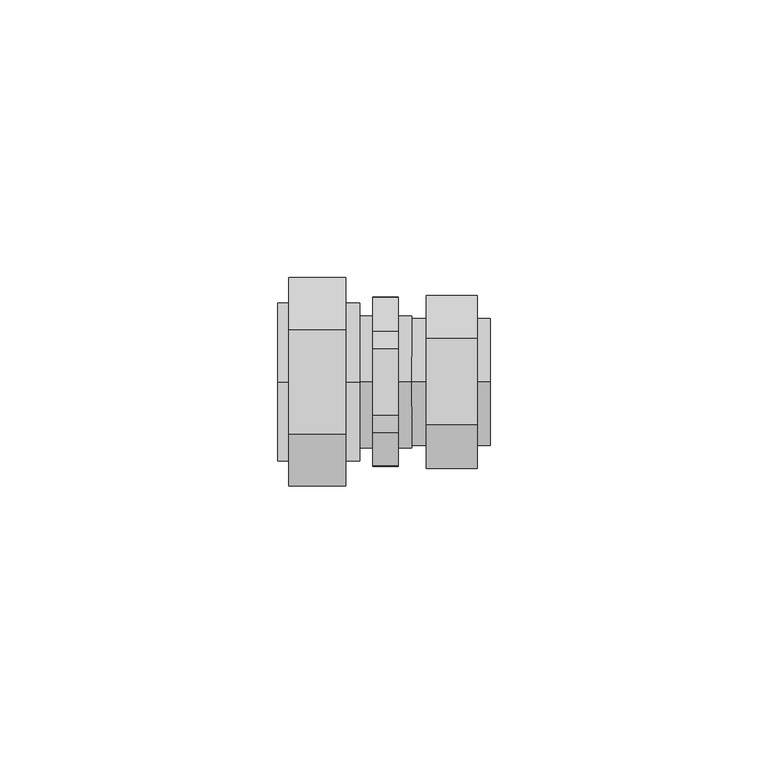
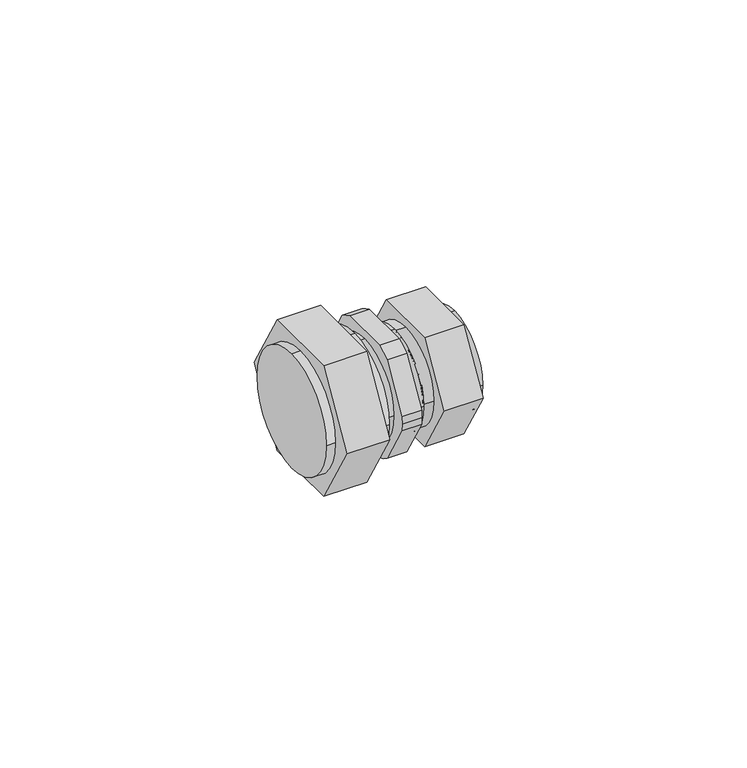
"""IFC4 building model written with IfcOpenShell, lengths in millimetres: pipe fitting geometry, HC-Kształtka-ParaForma-Tweetop-PERT-Redukcja : Tweetop."""

from ifc_helpers import new_model, si_unit, frame, origin, place, context, project, spatial, circle_curve, source, transform, mapped, element, save
from ifc_brep_helpers import plane_surface, cylinder_surface, advanced_brep


def pipe_fitting_6f00802d(model_context):
    return source(origin(), model_context, "Body", "AdvancedBrep", [
        advanced_brep(
        [(18.8, 0.0, -11.45), (18.8, -11.45, 0.0), (16.5, -11.45, 0.0), (16.5, 0.0, -11.45), (4.7, -11.45, 0.0), (4.7, 0.0, -11.45), (7.3, 0.0, -11.45), (7.3, -11.45, 0.0), (4.7, 0.0, 11.45), (4.7, 11.45, 0.0), (7.3, 7.7942286, -13.5), (7.3, -7.7942286, -13.5), (7.3, -15.5884573, 0.0), (7.3, -7.7942286, 13.5), (7.3, 7.7942286, 13.5), (7.3, 15.5884573, 0.0), (7.3, 0.0, 11.45), (7.3, 11.45, 0.0), (16.5, 7.7942286, -13.5), (16.5, 15.5884573, 0.0), (16.5, 7.7942286, 13.5), (16.5, -7.7942286, 13.5), (16.5, -15.5884573, 0.0), (16.5, -7.7942286, -13.5), (16.5, 0.0, 11.45), (16.5, 11.45, 0.0), (18.8, 0.0, 11.45), (18.8, 11.45, 0.0)],
        [
            (0, 1, circle_curve(frame((18.8, 0.0, 0.0), z_axis=(-1.0, 0.0, 0.0), x_axis=(0.0, 1.0000000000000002, 0.0)), 11.45)),
            (1, 2),
            (2, 3, circle_curve(frame((16.5, 0.0, 0.0), z_axis=(1.0, 0.0, 0.0), x_axis=(0.0, 1.0000000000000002, 0.0)), 11.45)),
            (3, 0),
            (4, 5, circle_curve(frame((4.7, 0.0, 0.0), z_axis=(1.0, 0.0, 0.0), x_axis=(0.0, 1.0000000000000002, 0.0)), 11.45)),
            (5, 6),
            (6, 7, circle_curve(frame((7.3, 0.0, 0.0), z_axis=(-1.0, 0.0, 0.0), x_axis=(0.0, 1.0000000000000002, 0.0)), 11.45)),
            (7, 4),
            (8, 9, circle_curve(frame((4.7, 0.0, 0.0), z_axis=(-1.0, 0.0, 0.0), x_axis=(0.0, 1.0000000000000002, 0.0)), 11.45)),
            (9, 5, circle_curve(frame((4.7, 0.0, 0.0), z_axis=(-1.0, 0.0, 0.0), x_axis=(0.0, 1.0000000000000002, 0.0)), 11.45)),
            (4, 8, circle_curve(frame((4.7, 0.0, 0.0), z_axis=(-1.0, 0.0, 0.0), x_axis=(0.0, 1.0000000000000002, 0.0)), 11.45)),
            (10, 11),
            (11, 12),
            (12, 13),
            (13, 14),
            (14, 15),
            (15, 10),
            (16, 7, circle_curve(frame((7.3, 0.0, 0.0), z_axis=(1.0, 0.0, 0.0), x_axis=(0.0, 1.0000000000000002, 0.0)), 11.45)),
            (6, 17, circle_curve(frame((7.3, 0.0, 0.0), z_axis=(1.0, 0.0, 0.0), x_axis=(0.0, 1.0000000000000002, 0.0)), 11.45)),
            (17, 16, circle_curve(frame((7.3, 0.0, 0.0), z_axis=(1.0, 0.0, 0.0), x_axis=(0.0, 1.0000000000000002, 0.0)), 11.45)),
            (18, 19),
            (19, 20),
            (20, 21),
            (21, 22),
            (22, 23),
            (23, 18),
            (2, 24, circle_curve(frame((16.5, 0.0, 0.0), z_axis=(-1.0, 0.0, 0.0), x_axis=(0.0, 1.0000000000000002, 0.0)), 11.45)),
            (24, 25, circle_curve(frame((16.5, 0.0, 0.0), z_axis=(-1.0, 0.0, 0.0), x_axis=(0.0, 1.0000000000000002, 0.0)), 11.45)),
            (25, 3, circle_curve(frame((16.5, 0.0, 0.0), z_axis=(-1.0, 0.0, 0.0), x_axis=(0.0, 1.0000000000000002, 0.0)), 11.45)),
            (10, 18),
            (23, 11),
            (22, 12),
            (21, 13),
            (20, 14),
            (19, 15),
            (1, 26, circle_curve(frame((18.8, 0.0, 0.0), z_axis=(-1.0, 0.0, 0.0), x_axis=(0.0, 1.0000000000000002, 0.0)), 11.45)),
            (26, 24),
            (16, 8),
            (27, 0, circle_curve(frame((18.8, 0.0, 0.0), z_axis=(-1.0, 0.0, 0.0), x_axis=(0.0, 1.0000000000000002, 0.0)), 11.45)),
            (25, 27),
            (9, 17),
            (26, 27, circle_curve(frame((18.8, 0.0, 0.0), z_axis=(-1.0, 0.0, 0.0), x_axis=(0.0, 1.0000000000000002, 0.0)), 11.45)),
        ],
        [
            cylinder_surface(frame((4.7, 0.0, 0.0), z_axis=(-1.0000000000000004, 0.0, 0.0), x_axis=(0.0, 1.0000000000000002, 0.0)), 11.45),
            plane_surface(frame((4.7, 0.0, 0.0), z_axis=(-1.0, 0.0, 0.0), x_axis=(0.0, 0.0, 1.0))),
            plane_surface(frame((7.3, 0.0, 0.0), z_axis=(-1.0, 0.0, 0.0), x_axis=(0.0, 0.0, 1.0))),
            plane_surface(frame((16.5, 0.0, 0.0), z_axis=(1.0, 0.0, 0.0), x_axis=(0.0, 0.0, 1.0))),
            plane_surface(frame((7.3, 7.7942286, -13.5), z_axis=(0.0, 0.0, -1.0), x_axis=(1.0, 0.0, 0.0))),
            plane_surface(frame((7.3, -7.7942286, -13.5), z_axis=(0.0, -0.8660254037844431, -0.49999999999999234), x_axis=(1.0, 0.0, 0.0))),
            plane_surface(frame((7.3, -15.5884573, 0.0), z_axis=(0.0, -0.8660254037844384, 0.5000000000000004), x_axis=(1.0, 0.0, 0.0))),
            plane_surface(frame((7.3, -7.7942286, 13.5), z_axis=(0.0, 0.0, 1.0), x_axis=(1.0, 0.0, 0.0))),
            plane_surface(frame((7.3, 7.7942286, 13.5), z_axis=(0.0, 0.8660254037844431, 0.4999999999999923), x_axis=(1.0, 0.0, 0.0))),
            plane_surface(frame((7.3, 15.5884573, 0.0), z_axis=(0.0, 0.866025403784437, -0.5000000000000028), x_axis=(1.0, 0.0, 0.0))),
            plane_surface(frame((18.8, 0.0, 0.0), z_axis=(1.0, 0.0, 0.0), x_axis=(0.0, 0.0, 1.0))),
        ],
        [
            (0, [[1, 2, 3, 4]]),
            (0, [[5, 6, 7, 8]]),
            (1, [[9, 10, -5, 11]]),
            (2, [[12, 13, 14, 15, 16, 17], [18, -7, 19, 20]]),
            (3, [[21, 22, 23, 24, 25, 26], [27, 28, 29, -3]]),
            (4, [[-12, 30, -26, 31]]),
            (5, [[-13, -31, -25, 32]]),
            (6, [[-14, -32, -24, 33]]),
            (7, [[-15, -33, -23, 34]]),
            (8, [[-16, -34, -22, 35]]),
            (9, [[-17, -35, -21, -30]]),
            (0, [[36, 37, -27, -2]]),
            (0, [[-11, -8, -18, 38]]),
            (0, [[39, -4, -29, 40]]),
            (0, [[-10, 41, -19, -6]]),
            (0, [[42, -40, -28, -37]]),
            (0, [[-9, -38, -20, -41]]),
            (10, [[-36, -1, -39, -42]]),
        ],
    ),
        advanced_brep(
        [(-19.4, 0.0, -14.2), (-19.4, 14.2, 0.0), (-17.4, 14.2, 0.0), (-17.4, 0.0, -14.2), (-4.7, 14.2, 0.0), (-4.7, 0.0, -14.2), (-7.2, 0.0, -14.2), (-7.2, 14.2, 0.0), (-4.7, 0.0, 14.2), (-4.7, -14.2, 0.0), (-7.2, -9.3819419, -16.25), (-7.2, 9.3819419, -16.25), (-7.2, 18.7638837, 0.0), (-7.2, 9.3819419, 16.25), (-7.2, -9.3819419, 16.25), (-7.2, -18.7638837, 0.0), (-7.2, 0.0, 14.2), (-7.2, -14.2, 0.0), (-17.4, -9.3819419, -16.25), (-17.4, -18.7638837, 0.0), (-17.4, -9.3819419, 16.25), (-17.4, 9.3819419, 16.25), (-17.4, 18.7638837, 0.0), (-17.4, 9.3819419, -16.25), (-17.4, 0.0, 14.2), (-17.4, -14.2, 0.0), (-19.4, 0.0, 14.2), (-19.4, -14.2, 0.0)],
        [
            (0, 1, circle_curve(frame((-19.4, 0.0, 0.0), z_axis=(1.0, 0.0, 0.0), x_axis=(0.0, -1.0, 0.0)), 14.2)),
            (1, 2),
            (2, 3, circle_curve(frame((-17.4, 0.0, 0.0), z_axis=(-1.0, 0.0, 0.0), x_axis=(0.0, -1.0, 0.0)), 14.2)),
            (3, 0),
            (4, 5, circle_curve(frame((-4.7, 0.0, 0.0), z_axis=(-1.0, 0.0, 0.0), x_axis=(0.0, -1.0, 0.0)), 14.2)),
            (5, 6),
            (6, 7, circle_curve(frame((-7.2, 0.0, 0.0), z_axis=(1.0, 0.0, 0.0), x_axis=(0.0, -1.0, 0.0)), 14.2)),
            (7, 4),
            (8, 9, circle_curve(frame((-4.7, 0.0, 0.0), z_axis=(1.0, 0.0, 0.0), x_axis=(0.0, -1.0, 0.0)), 14.2)),
            (9, 5, circle_curve(frame((-4.7, 0.0, 0.0), z_axis=(1.0, 0.0, 0.0), x_axis=(0.0, -1.0, 0.0)), 14.2)),
            (4, 8, circle_curve(frame((-4.7, 0.0, 0.0), z_axis=(1.0, 0.0, 0.0), x_axis=(0.0, -1.0, 0.0)), 14.2)),
            (10, 11),
            (11, 12),
            (12, 13),
            (13, 14),
            (14, 15),
            (15, 10),
            (16, 7, circle_curve(frame((-7.2, 0.0, 0.0), z_axis=(-1.0, 0.0, 0.0), x_axis=(0.0, -1.0, 0.0)), 14.2)),
            (6, 17, circle_curve(frame((-7.2, 0.0, 0.0), z_axis=(-1.0, 0.0, 0.0), x_axis=(0.0, -1.0, 0.0)), 14.2)),
            (17, 16, circle_curve(frame((-7.2, 0.0, 0.0), z_axis=(-1.0, 0.0, 0.0), x_axis=(0.0, -1.0, 0.0)), 14.2)),
            (18, 19),
            (19, 20),
            (20, 21),
            (21, 22),
            (22, 23),
            (23, 18),
            (2, 24, circle_curve(frame((-17.4, 0.0, 0.0), z_axis=(1.0, 0.0, 0.0), x_axis=(0.0, -1.0, 0.0)), 14.2)),
            (24, 25, circle_curve(frame((-17.4, 0.0, 0.0), z_axis=(1.0, 0.0, 0.0), x_axis=(0.0, -1.0, 0.0)), 14.2)),
            (25, 3, circle_curve(frame((-17.4, 0.0, 0.0), z_axis=(1.0, 0.0, 0.0), x_axis=(0.0, -1.0, 0.0)), 14.2)),
            (10, 18),
            (23, 11),
            (22, 12),
            (21, 13),
            (20, 14),
            (19, 15),
            (1, 26, circle_curve(frame((-19.4, 0.0, 0.0), z_axis=(1.0, 0.0, 0.0), x_axis=(0.0, -1.0, 0.0)), 14.2)),
            (26, 24),
            (16, 8),
            (27, 0, circle_curve(frame((-19.4, 0.0, 0.0), z_axis=(1.0, 0.0, 0.0), x_axis=(0.0, -1.0, 0.0)), 14.2)),
            (25, 27),
            (9, 17),
            (26, 27, circle_curve(frame((-19.4, 0.0, 0.0), z_axis=(1.0, 0.0, 0.0), x_axis=(0.0, -1.0, 0.0)), 14.2)),
        ],
        [
            cylinder_surface(frame((-4.7, 0.0, 0.0), z_axis=(1.0, 0.0, 0.0), x_axis=(0.0, -1.0, 0.0)), 14.2),
            plane_surface(frame((-4.7, 0.0, 0.0), z_axis=(1.0, 0.0, 0.0), x_axis=(0.0, 0.0, 1.0))),
            plane_surface(frame((-7.2, 0.0, 0.0), z_axis=(1.0, 0.0, 0.0), x_axis=(0.0, 0.0, 1.0))),
            plane_surface(frame((-17.4, 0.0, 0.0), z_axis=(-1.0, 0.0, 0.0), x_axis=(0.0, 0.0, 1.0))),
            plane_surface(frame((-7.2, -9.3819419, -16.25), z_axis=(0.0, 0.0, -1.0), x_axis=(-1.0, 0.0, 0.0))),
            plane_surface(frame((-7.2, 9.3819419, -16.25), z_axis=(0.0, 0.8660254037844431, -0.49999999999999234), x_axis=(-1.0, 0.0, 0.0))),
            plane_surface(frame((-7.2, 18.7638837, 0.0), z_axis=(0.0, 0.8660254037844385, 0.5000000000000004), x_axis=(-1.0, 0.0, 0.0))),
            plane_surface(frame((-7.2, 9.3819419, 16.25), z_axis=(0.0, 0.0, 1.0), x_axis=(-1.0, 0.0, 0.0))),
            plane_surface(frame((-7.2, -9.3819419, 16.25), z_axis=(0.0, -0.8660254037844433, 0.4999999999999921), x_axis=(-1.0, 0.0, 0.0))),
            plane_surface(frame((-7.2, -18.7638837, 0.0), z_axis=(0.0, -0.8660254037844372, -0.5000000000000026), x_axis=(-1.0, 0.0, 0.0))),
            plane_surface(frame((-19.4, 0.0, 0.0), z_axis=(-1.0, 0.0, 0.0), x_axis=(0.0, 0.0, 1.0))),
        ],
        [
            (0, [[1, 2, 3, 4]]),
            (0, [[5, 6, 7, 8]]),
            (1, [[9, 10, -5, 11]]),
            (2, [[12, 13, 14, 15, 16, 17], [18, -7, 19, 20]]),
            (3, [[21, 22, 23, 24, 25, 26], [27, 28, 29, -3]]),
            (4, [[-12, 30, -26, 31]]),
            (5, [[-13, -31, -25, 32]]),
            (6, [[-14, -32, -24, 33]]),
            (7, [[-15, -33, -23, 34]]),
            (8, [[-16, -34, -22, 35]]),
            (9, [[-17, -35, -21, -30]]),
            (0, [[36, 37, -27, -2]]),
            (0, [[-11, -8, -18, 38]]),
            (0, [[39, -4, -29, 40]]),
            (0, [[-10, 41, -19, -6]]),
            (0, [[42, -40, -28, -37]]),
            (0, [[-9, -38, -20, -41]]),
            (10, [[-36, -1, -39, -42]]),
        ],
    ),
        advanced_brep(
        [(-2.3, 6.0466933, -14.0), (-2.3, -6.0466933, -14.0), (-2.3, -9.101009, -12.23659), (-2.3, -15.1477023, -1.76341), (-2.3, -15.25, 0.0), (-2.3, -15.1477023, 1.76341), (-2.3, -9.101009, 12.23659), (-2.3, -6.0466933, 14.0), (-2.3, 6.0466933, 14.0), (-2.3, 9.101009, 12.23659), (-2.3, 15.1477023, 1.76341), (-2.3, 15.25, 0.0), (-2.3, 15.1477023, -1.76341), (-2.3, 9.101009, -12.23659), (-2.3, 0.0, 11.9), (-2.3, -11.9, 0.0), (-2.3, 0.0, -11.9), (-2.3, 11.9, 0.0), (2.3, 9.101009, -12.23659), (2.3, 15.1477023, -1.76341), (2.3, 15.25, 0.0), (2.3, 15.1477023, 1.76341), (2.3, 9.101009, 12.23659), (2.3, 6.0466933, 14.0), (2.3, -6.0466933, 14.0), (2.3, -9.101009, 12.23659), (2.3, -15.1477023, 1.76341), (2.3, -15.25, 0.0), (2.3, -15.1477023, -1.76341), (2.3, -9.101009, -12.23659), (2.3, -6.0466933, -14.0), (2.3, 6.0466933, -14.0), (2.3, -11.9, 0.0), (2.3, 0.0, 11.9), (2.3, 11.9, 0.0), (2.3, 0.0, -11.9), (-4.7, 0.0, 11.9), (-4.7, 11.9, 0.0), (-4.7, 0.0, -11.9), (-4.7, -11.9, 0.0), (4.7, 0.0, 11.9), (4.7, -11.9, 0.0), (4.7, 0.0, -11.9), (4.7, 11.9, 0.0)],
        [
            (0, 1),
            (1, 2, circle_curve(frame((-2.3, 0.0, 0.0), z_axis=(-1.0, 0.0, 0.0), x_axis=(0.0, 1.0, 0.0)), 15.25)),
            (2, 3),
            (3, 4, circle_curve(frame((-2.3, 0.0, 0.0), z_axis=(-1.0, 0.0, 0.0), x_axis=(0.0, 1.0, 0.0)), 15.25)),
            (4, 5, circle_curve(frame((-2.3, 0.0, 0.0), z_axis=(-1.0, 0.0, 0.0), x_axis=(0.0, 1.0, 0.0)), 15.25)),
            (5, 6),
            (6, 7, circle_curve(frame((-2.3, 0.0, 0.0), z_axis=(-1.0, 0.0, 0.0), x_axis=(0.0, 1.0, 0.0)), 15.25)),
            (7, 8),
            (8, 9, circle_curve(frame((-2.3, 0.0, 0.0), z_axis=(-1.0, 0.0, 0.0), x_axis=(0.0, 1.0, 0.0)), 15.25)),
            (9, 10),
            (10, 11, circle_curve(frame((-2.3, 0.0, 0.0), z_axis=(-1.0, 0.0, 0.0), x_axis=(0.0, 1.0, 0.0)), 15.25)),
            (11, 12, circle_curve(frame((-2.3, 0.0, 0.0), z_axis=(-1.0, 0.0, 0.0), x_axis=(0.0, 1.0, 0.0)), 15.25)),
            (12, 13),
            (13, 0, circle_curve(frame((-2.3, 0.0, 0.0), z_axis=(-1.0, 0.0, 0.0), x_axis=(0.0, 1.0, 0.0)), 15.25)),
            (14, 15, circle_curve(frame((-2.3, 0.0, 0.0), z_axis=(1.0, 0.0, 0.0), x_axis=(0.0, 1.0, 0.0)), 11.9)),
            (15, 16, circle_curve(frame((-2.3, 0.0, 0.0), z_axis=(1.0, 0.0, 0.0), x_axis=(0.0, 1.0, 0.0)), 11.9)),
            (16, 17, circle_curve(frame((-2.3, 0.0, 0.0), z_axis=(1.0, 0.0, 0.0), x_axis=(0.0, 1.0, 0.0)), 11.9)),
            (17, 14, circle_curve(frame((-2.3, 0.0, 0.0), z_axis=(1.0, 0.0, 0.0), x_axis=(0.0, 1.0, 0.0)), 11.9)),
            (18, 19),
            (19, 20, circle_curve(frame((2.3, 0.0, 0.0), z_axis=(1.0, 0.0, 0.0), x_axis=(0.0, 1.0, 0.0)), 15.25)),
            (20, 21, circle_curve(frame((2.3, 0.0, 0.0), z_axis=(1.0, 0.0, 0.0), x_axis=(0.0, 1.0, 0.0)), 15.25)),
            (21, 22),
            (22, 23, circle_curve(frame((2.3, 0.0, 0.0), z_axis=(1.0, 0.0, 0.0), x_axis=(0.0, 1.0, 0.0)), 15.25)),
            (23, 24),
            (24, 25, circle_curve(frame((2.3, 0.0, 0.0), z_axis=(1.0, 0.0, 0.0), x_axis=(0.0, 1.0, 0.0)), 15.25)),
            (25, 26),
            (26, 27, circle_curve(frame((2.3, 0.0, 0.0), z_axis=(1.0, 0.0, 0.0), x_axis=(0.0, 1.0, 0.0)), 15.25)),
            (27, 28, circle_curve(frame((2.3, 0.0, 0.0), z_axis=(1.0, 0.0, 0.0), x_axis=(0.0, 1.0, 0.0)), 15.25)),
            (28, 29),
            (29, 30, circle_curve(frame((2.3, 0.0, 0.0), z_axis=(1.0, 0.0, 0.0), x_axis=(0.0, 1.0, 0.0)), 15.25)),
            (30, 31),
            (31, 18, circle_curve(frame((2.3, 0.0, 0.0), z_axis=(1.0, 0.0, 0.0), x_axis=(0.0, 1.0, 0.0)), 15.25)),
            (32, 33, circle_curve(frame((2.3, 0.0, 0.0), z_axis=(-1.0, 0.0, 0.0), x_axis=(0.0, 1.0, 0.0)), 11.9)),
            (33, 34, circle_curve(frame((2.3, 0.0, 0.0), z_axis=(-1.0, 0.0, 0.0), x_axis=(0.0, 1.0, 0.0)), 11.9)),
            (34, 35, circle_curve(frame((2.3, 0.0, 0.0), z_axis=(-1.0, 0.0, 0.0), x_axis=(0.0, 1.0, 0.0)), 11.9)),
            (35, 32, circle_curve(frame((2.3, 0.0, 0.0), z_axis=(-1.0, 0.0, 0.0), x_axis=(0.0, 1.0, 0.0)), 11.9)),
            (1, 30),
            (29, 2),
            (13, 18),
            (31, 0),
            (11, 20),
            (19, 12),
            (27, 4),
            (3, 28),
            (6, 25),
            (24, 7),
            (8, 23),
            (22, 9),
            (10, 21),
            (26, 5),
            (36, 37, circle_curve(frame((-4.7, 0.0, 0.0), z_axis=(-1.0, 0.0, 0.0), x_axis=(0.0, 1.0, 0.0)), 11.9)),
            (37, 38, circle_curve(frame((-4.7, 0.0, 0.0), z_axis=(-1.0, 0.0, 0.0), x_axis=(0.0, 1.0, 0.0)), 11.9)),
            (38, 39, circle_curve(frame((-4.7, 0.0, 0.0), z_axis=(-1.0, 0.0, 0.0), x_axis=(0.0, 1.0, 0.0)), 11.9)),
            (39, 36, circle_curve(frame((-4.7, 0.0, 0.0), z_axis=(-1.0, 0.0, 0.0), x_axis=(0.0, 1.0, 0.0)), 11.9)),
            (40, 41, circle_curve(frame((4.7, 0.0, 0.0), z_axis=(1.0, 0.0, 0.0), x_axis=(0.0, 1.0, 0.0)), 11.9)),
            (41, 42, circle_curve(frame((4.7, 0.0, 0.0), z_axis=(1.0, 0.0, 0.0), x_axis=(0.0, 1.0, 0.0)), 11.9)),
            (42, 43, circle_curve(frame((4.7, 0.0, 0.0), z_axis=(1.0, 0.0, 0.0), x_axis=(0.0, 1.0, 0.0)), 11.9)),
            (43, 40, circle_curve(frame((4.7, 0.0, 0.0), z_axis=(1.0, 0.0, 0.0), x_axis=(0.0, 1.0, 0.0)), 11.9)),
            (39, 15),
            (14, 36),
            (40, 33),
            (32, 41),
            (37, 17),
            (16, 38),
            (42, 35),
            (34, 43),
        ],
        [
            plane_surface(frame((-2.3, 0.0, 0.0), z_axis=(-1.0, 0.0, 0.0), x_axis=(0.0, 0.0, 1.0))),
            plane_surface(frame((2.3, 0.0, 0.0), z_axis=(1.0, 0.0, 0.0), x_axis=(0.0, 0.0, 1.0))),
            cylinder_surface(frame((-2.3, 0.0, 0.0), z_axis=(1.0, 0.0, 0.0), x_axis=(0.0, 1.0, 0.0)), 15.25),
            plane_surface(frame((-4.7, 0.0, 0.0), z_axis=(-1.0, 0.0, 0.0), x_axis=(0.0, 0.0, 1.0))),
            plane_surface(frame((4.7, 0.0, 0.0), z_axis=(1.0, 0.0, 0.0), x_axis=(0.0, 0.0, 1.0))),
            cylinder_surface(frame((-4.7, 0.0, 0.0), z_axis=(-1.0, 0.0, 0.0), x_axis=(0.0, 1.0, 0.0)), 11.9),
            plane_surface(frame((-2.3, 8.0829038, -14.0), z_axis=(0.0, 0.0, -1.0), x_axis=(1.0, 0.0, 0.0))),
            plane_surface(frame((-2.3, -8.0829038, -14.0), z_axis=(0.0, -0.8660254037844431, -0.4999999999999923), x_axis=(1.0, 0.0, 0.0))),
            plane_surface(frame((-2.3, -16.1658075, 0.0), z_axis=(0.0, -0.8660254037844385, 0.5000000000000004), x_axis=(1.0, 0.0, 0.0))),
            plane_surface(frame((-2.3, -8.0829038, 14.0), z_axis=(0.0, 0.0, 1.0), x_axis=(1.0, 0.0, 0.0))),
            plane_surface(frame((-2.3, 8.0829038, 14.0), z_axis=(0.0, 0.8660254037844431, 0.49999999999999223), x_axis=(1.0, 0.0, 0.0))),
            plane_surface(frame((-2.3, 16.1658075, 0.0), z_axis=(0.0, 0.8660254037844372, -0.5000000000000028), x_axis=(1.0, 0.0, 0.0))),
        ],
        [
            (0, [[1, 2, 3, 4, 5, 6, 7, 8, 9, 10, 11, 12, 13, 14], [15, 16, 17, 18]]),
            (1, [[19, 20, 21, 22, 23, 24, 25, 26, 27, 28, 29, 30, 31, 32], [33, 34, 35, 36]]),
            (2, [[-2, 37, -30, 38]]),
            (2, [[-14, 39, -32, 40]]),
            (2, [[41, -20, 42, -12]]),
            (2, [[43, -4, 44, -28]]),
            (2, [[-7, 45, -25, 46]]),
            (2, [[-9, 47, -23, 48]]),
            (2, [[-41, -11, 49, -21]]),
            (2, [[-43, -27, 50, -5]]),
            (3, [[51, 52, 53, 54]]),
            (4, [[55, 56, 57, 58]]),
            (5, [[-54, 59, -15, 60]]),
            (5, [[-55, 61, -33, 62]]),
            (5, [[-52, 63, -17, 64]]),
            (5, [[-57, 65, -35, 66]]),
            (5, [[-51, -60, -18, -63]]),
            (5, [[-58, -66, -34, -61]]),
            (5, [[-53, -64, -16, -59]]),
            (5, [[-56, -62, -36, -65]]),
            (6, [[-1, -40, -31, -37]]),
            (7, [[-3, -38, -29, -44]]),
            (8, [[-6, -50, -26, -45]]),
            (9, [[-8, -46, -24, -47]]),
            (10, [[-10, -48, -22, -49]]),
            (11, [[-13, -42, -19, -39]]),
        ],
    ),
    ])


if __name__ == "__main__":
    model = new_model("IFC4")
    model_context = context("Model", 3, world=origin())
    ifc_project = project(units=[si_unit("LENGTHUNIT", "METRE", prefix="MILLI")], contexts=[model_context])
    site = spatial("IfcSite", under=ifc_project)
    building = spatial("IfcBuilding", under=site)
    placement = place(None, origin())
    pipe_fitting_shape = pipe_fitting_6f00802d(model_context)
    element("IfcPipeFitting", 1, ObjectType="HC-Kształtka-ParaForma-Tweetop-PERT-Redukcja : Tweetop", at=placement, inside=building, context=model_context, shape_type="MappedRepresentation", body=[
        mapped(pipe_fitting_shape, transform((0.0, 0.0, 0.0), x_axis=(1.0, 0.0, 0.0), y_axis=(0.0, 1.0, 0.0), z_axis=(0.0, 0.0, 1.0))),
    ])
    save(model, "model.ifc")
